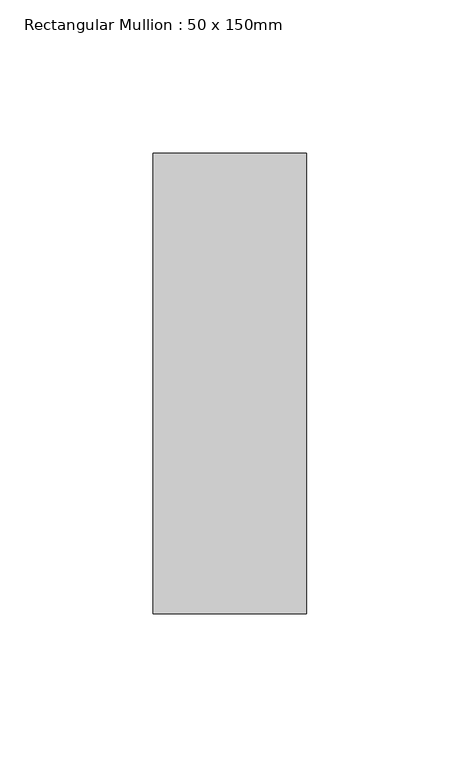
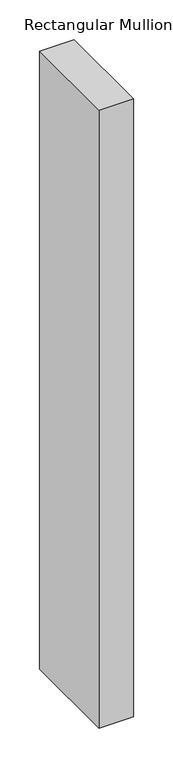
"""IFC4 building model written with IfcOpenShell, lengths in millimetres: member geometry, Rectangular Mullion : 50 x 150mm."""

from ifc_helpers import new_model, si_unit, frame, origin, place, context, project, spatial, polyline, outline, extrude, source, transform, mapped, element, save


def rectangular_mullion_50_x_150mm_c8b1eae1(model_context):
    return source(origin(), model_context, "Body", "SweptSolid", [
        extrude(outline(polyline([(25.0, 75.0), (25.0, -75.0), (-25.0, -75.0), (-25.0, 75.0), (25.0, 75.0)])), frame((0.0, 0.0, -951.3515371), z_axis=(0.0, 0.0, 1.0), x_axis=(1.0, 0.0, 0.0)), (0.0, 0.0, 1.0), 951.3515371),
    ])


if __name__ == "__main__":
    model = new_model("IFC4")
    model_context = context("Model", 3, world=origin())
    ifc_project = project(units=[si_unit("LENGTHUNIT", "METRE", prefix="MILLI")], contexts=[model_context])
    site = spatial("IfcSite", under=ifc_project)
    building = spatial("IfcBuilding", under=site)
    placement = place(None, origin())
    rectangular_mullion_50_x_150mm_shape = rectangular_mullion_50_x_150mm_c8b1eae1(model_context)
    element("IfcMember", 1, ObjectType="Rectangular Mullion : 50 x 150mm", at=placement, inside=building, context=model_context, shape_type="MappedRepresentation", body=[
        mapped(rectangular_mullion_50_x_150mm_shape, transform((0.0, 0.0, 0.0), x_axis=(1.0, 0.0, 0.0), y_axis=(0.0, 1.0, 0.0), z_axis=(0.0, 0.0, 1.0))),
    ])
    save(model, "model.ifc")
